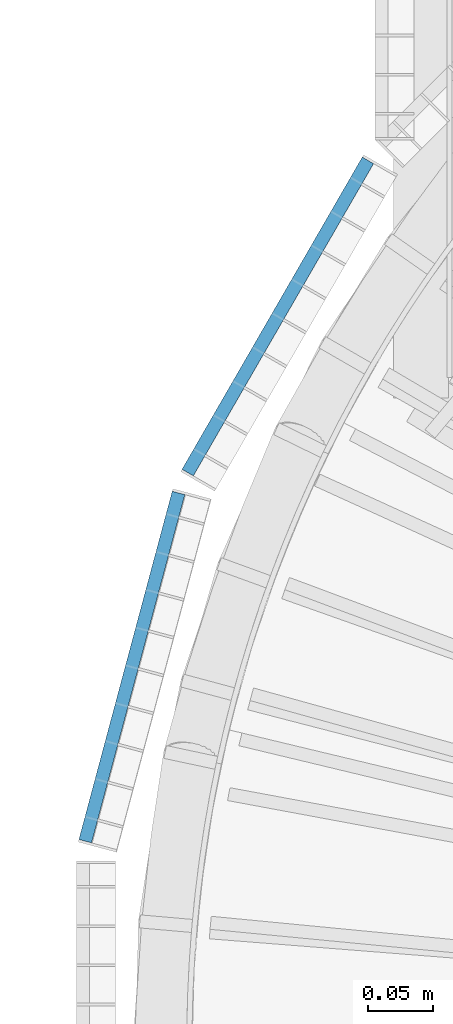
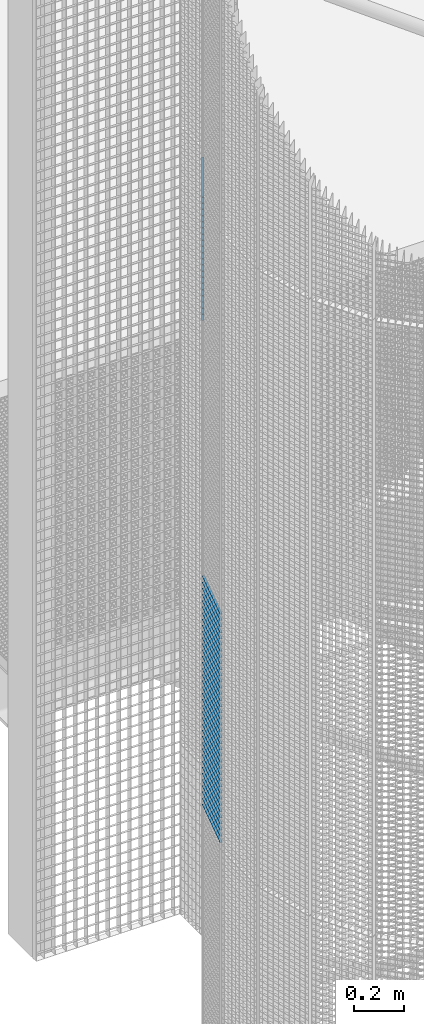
# One storey, part 202 of 1183: 59 beams, 2 elements without a shape of their own.
"""IFC2X3 building model written with IfcOpenShell, lengths in millimetres."""

from ifc_helpers import new_model, si_unit, frame, origin_with_axes, origin_2d_with_axis, place, context, subcontext, project, spatial, rectangle, extrude, material, type_object, element, aggregate, save


model = new_model("IFC2X3")

# Units and contexts
model_context = context("Model", 3, precision=1e-05, world=origin_with_axes())
body_context = subcontext(model_context, "Body", "Model", "MODEL_VIEW")
ifc_project = project(units=[si_unit("LENGTHUNIT", "METRE", prefix="MILLI"), si_unit("AREAUNIT", "SQUARE_METRE"), si_unit("VOLUMEUNIT", "CUBIC_METRE"), si_unit("MASSUNIT", "GRAM", prefix="KILO"), si_unit("TIMEUNIT", "SECOND"), si_unit("PLANEANGLEUNIT", "RADIAN"), si_unit("SOLIDANGLEUNIT", "STERADIAN"), si_unit("THERMODYNAMICTEMPERATUREUNIT", "DEGREE_CELSIUS"), si_unit("LUMINOUSINTENSITYUNIT", "LUMEN")], contexts=[model_context])

# Site, building, storey
site_placement = place(None, origin_with_axes())
site = spatial("IfcSite", under=ifc_project, at=site_placement, Name="Undefined", CompositionType="ELEMENT")
building_placement = place(site_placement, origin_with_axes())
building = spatial("IfcBuilding", under=site, at=building_placement, Name="Undefined", CompositionType="ELEMENT")
storey_placement = place(building_placement, origin_with_axes())
storey = spatial("IfcBuildingStorey", under=building, at=storey_placement, Name="Undefined", CompositionType="ELEMENT", Elevation=0.0)

# Assembly, beams
assembly_1_placement = place(storey_placement, origin_with_axes())
assembly_1 = element("IfcElementAssembly", 1, at=assembly_1_placement, inside=storey, Name="BORDURE", AssemblyPlace="NOTDEFINED", PredefinedType="NOTDEFINED")
ifc_material = material(Name="STEEL/S235JR")
beam_type = type_object("IfcBeamType", Name="PL2*10", PredefinedType="NOTDEFINED")
beam_1_placement = place(assembly_1_placement, frame((-1040.30888419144, 421.618038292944, 7140.0), z_axis=(-0.965925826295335, 0.258819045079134, 0.0), x_axis=(-0.258819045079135, -0.965925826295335, 0.0)))
beam_1 = element("IfcBeam", 2, at=beam_1_placement, type_object=beam_type, material=ifc_material, Name="ENTRETOISE", context=body_context, shape_type="SweptSolid", body=[
    extrude(rectangle(XDim=2.0, YDim=10.0, at=origin_2d_with_axis()), frame((275.999999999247, 9.09494701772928e-13, 1.53210777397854e-14), z_axis=(-1.0, 0.0, 0.0), x_axis=(0.0, -1.0, 0.0)), (0.0, 0.0, 1.0), 276.0),
])
beam_2_placement = place(assembly_1_placement, frame((-1040.30888419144, 421.618038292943, 6720.0), z_axis=(-0.965925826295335, 0.258819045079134, 0.0), x_axis=(-0.258819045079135, -0.965925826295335, 0.0)))
beam_2 = element("IfcBeam", 3, at=beam_2_placement, type_object=beam_type, material=ifc_material, Name="ENTRETOISE", context=body_context, shape_type="SweptSolid", body=[
    extrude(rectangle(XDim=2.0, YDim=10.0, at=origin_2d_with_axis()), frame((275.999999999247, 9.09494701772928e-13, 1.53210777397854e-14), z_axis=(-1.0, 0.0, 0.0), x_axis=(0.0, -1.0, 0.0)), (0.0, 0.0, 1.0), 276.0),
])
beam_3_placement = place(assembly_1_placement, frame((-1040.30888419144, 421.618038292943, 6690.0), z_axis=(-0.965925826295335, 0.258819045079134, 0.0), x_axis=(-0.258819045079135, -0.965925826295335, 0.0)))
beam_3 = element("IfcBeam", 4, at=beam_3_placement, type_object=beam_type, material=ifc_material, Name="ENTRETOISE", context=body_context, shape_type="SweptSolid", body=[
    extrude(rectangle(XDim=2.0, YDim=10.0, at=origin_2d_with_axis()), frame((275.999999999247, 9.09494701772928e-13, 1.53210777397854e-14), z_axis=(-1.0, 0.0, 0.0), x_axis=(0.0, -1.0, 0.0)), (0.0, 0.0, 1.0), 276.0),
])
beam_4_placement = place(assembly_1_placement, frame((-1040.30888419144, 421.618038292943, 6750.0), z_axis=(-0.965925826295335, 0.258819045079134, 0.0), x_axis=(-0.258819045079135, -0.965925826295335, 0.0)))
beam_4 = element("IfcBeam", 5, at=beam_4_placement, type_object=beam_type, material=ifc_material, Name="ENTRETOISE", context=body_context, shape_type="SweptSolid", body=[
    extrude(rectangle(XDim=2.0, YDim=10.0, at=origin_2d_with_axis()), frame((275.999999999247, 9.09494701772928e-13, 1.53210777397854e-14), z_axis=(-1.0, 0.0, 0.0), x_axis=(0.0, -1.0, 0.0)), (0.0, 0.0, 1.0), 276.0),
])
beam_5_placement = place(assembly_1_placement, frame((-1040.30888419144, 421.618038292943, 6660.0), z_axis=(-0.965925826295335, 0.258819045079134, 0.0), x_axis=(-0.258819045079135, -0.965925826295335, 0.0)))
beam_5 = element("IfcBeam", 6, at=beam_5_placement, type_object=beam_type, material=ifc_material, Name="ENTRETOISE", context=body_context, shape_type="SweptSolid", body=[
    extrude(rectangle(XDim=2.0, YDim=10.0, at=origin_2d_with_axis()), frame((275.999999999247, 9.09494701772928e-13, 1.53210777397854e-14), z_axis=(-1.0, 0.0, 0.0), x_axis=(0.0, -1.0, 0.0)), (0.0, 0.0, 1.0), 276.0),
])
beam_6_placement = place(assembly_1_placement, frame((-1040.30888419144, 421.618038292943, 6630.0), z_axis=(-0.965925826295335, 0.258819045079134, 0.0), x_axis=(-0.258819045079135, -0.965925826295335, 0.0)))
beam_6 = element("IfcBeam", 7, at=beam_6_placement, type_object=beam_type, material=ifc_material, Name="ENTRETOISE", context=body_context, shape_type="SweptSolid", body=[
    extrude(rectangle(XDim=2.0, YDim=10.0, at=origin_2d_with_axis()), frame((275.999999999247, 9.09494701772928e-13, 1.53210777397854e-14), z_axis=(-1.0, 0.0, 0.0), x_axis=(0.0, -1.0, 0.0)), (0.0, 0.0, 1.0), 276.0),
])
beam_7_placement = place(assembly_1_placement, frame((-1040.30888419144, 421.618038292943, 6780.0), z_axis=(-0.965925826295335, 0.258819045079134, 0.0), x_axis=(-0.258819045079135, -0.965925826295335, 0.0)))
beam_7 = element("IfcBeam", 8, at=beam_7_placement, type_object=beam_type, material=ifc_material, Name="ENTRETOISE", context=body_context, shape_type="SweptSolid", body=[
    extrude(rectangle(XDim=2.0, YDim=10.0, at=origin_2d_with_axis()), frame((275.999999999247, 9.09494701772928e-13, 1.53210777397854e-14), z_axis=(-1.0, 0.0, 0.0), x_axis=(0.0, -1.0, 0.0)), (0.0, 0.0, 1.0), 276.0),
])
beam_8_placement = place(assembly_1_placement, frame((-1040.30888419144, 421.618038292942, 6600.0), z_axis=(-0.965925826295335, 0.258819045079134, 0.0), x_axis=(-0.258819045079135, -0.965925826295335, 0.0)))
beam_8 = element("IfcBeam", 9, at=beam_8_placement, type_object=beam_type, material=ifc_material, Name="ENTRETOISE", context=body_context, shape_type="SweptSolid", body=[
    extrude(rectangle(XDim=2.0, YDim=10.0, at=origin_2d_with_axis()), frame((275.999999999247, 9.09494701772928e-13, 1.53210777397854e-14), z_axis=(-1.0, 0.0, 0.0), x_axis=(0.0, -1.0, 0.0)), (0.0, 0.0, 1.0), 276.0),
])
beam_9_placement = place(assembly_1_placement, frame((-1040.30888419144, 421.618038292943, 6810.0), z_axis=(-0.965925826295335, 0.258819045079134, 0.0), x_axis=(-0.258819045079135, -0.965925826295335, 0.0)))
beam_9 = element("IfcBeam", 10, at=beam_9_placement, type_object=beam_type, material=ifc_material, Name="ENTRETOISE", context=body_context, shape_type="SweptSolid", body=[
    extrude(rectangle(XDim=2.0, YDim=10.0, at=origin_2d_with_axis()), frame((275.999999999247, 9.09494701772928e-13, 1.53210777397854e-14), z_axis=(-1.0, 0.0, 0.0), x_axis=(0.0, -1.0, 0.0)), (0.0, 0.0, 1.0), 276.0),
])
beam_10_placement = place(assembly_1_placement, frame((-1040.30888419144, 421.618038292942, 6570.0), z_axis=(-0.965925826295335, 0.258819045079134, 0.0), x_axis=(-0.258819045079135, -0.965925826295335, 0.0)))
beam_10 = element("IfcBeam", 11, at=beam_10_placement, type_object=beam_type, material=ifc_material, Name="ENTRETOISE", context=body_context, shape_type="SweptSolid", body=[
    extrude(rectangle(XDim=2.0, YDim=10.0, at=origin_2d_with_axis()), frame((275.999999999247, 9.09494701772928e-13, 1.53210777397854e-14), z_axis=(-1.0, 0.0, 0.0), x_axis=(0.0, -1.0, 0.0)), (0.0, 0.0, 1.0), 276.0),
])
beam_11_placement = place(assembly_1_placement, frame((-1040.30888419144, 421.618038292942, 6540.0), z_axis=(-0.965925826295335, 0.258819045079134, 0.0), x_axis=(-0.258819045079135, -0.965925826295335, 0.0)))
beam_11 = element("IfcBeam", 12, at=beam_11_placement, type_object=beam_type, material=ifc_material, Name="ENTRETOISE", context=body_context, shape_type="SweptSolid", body=[
    extrude(rectangle(XDim=2.0, YDim=10.0, at=origin_2d_with_axis()), frame((275.999999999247, 9.09494701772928e-13, 1.53210777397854e-14), z_axis=(-1.0, 0.0, 0.0), x_axis=(0.0, -1.0, 0.0)), (0.0, 0.0, 1.0), 276.0),
])
beam_12_placement = place(assembly_1_placement, frame((-1040.30888419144, 421.618038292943, 6840.0), z_axis=(-0.965925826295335, 0.258819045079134, 0.0), x_axis=(-0.258819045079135, -0.965925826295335, 0.0)))
beam_12 = element("IfcBeam", 13, at=beam_12_placement, type_object=beam_type, material=ifc_material, Name="ENTRETOISE", context=body_context, shape_type="SweptSolid", body=[
    extrude(rectangle(XDim=2.0, YDim=10.0, at=origin_2d_with_axis()), frame((275.999999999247, 9.09494701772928e-13, 1.53210777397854e-14), z_axis=(-1.0, 0.0, 0.0), x_axis=(0.0, -1.0, 0.0)), (0.0, 0.0, 1.0), 276.0),
])
beam_13_placement = place(assembly_1_placement, frame((-1040.30888419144, 421.618038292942, 6510.0), z_axis=(-0.965925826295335, 0.258819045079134, 0.0), x_axis=(-0.258819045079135, -0.965925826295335, 0.0)))
beam_13 = element("IfcBeam", 14, at=beam_13_placement, type_object=beam_type, material=ifc_material, Name="ENTRETOISE", context=body_context, shape_type="SweptSolid", body=[
    extrude(rectangle(XDim=2.0, YDim=10.0, at=origin_2d_with_axis()), frame((275.999999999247, 9.09494701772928e-13, 1.53210777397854e-14), z_axis=(-1.0, 0.0, 0.0), x_axis=(0.0, -1.0, 0.0)), (0.0, 0.0, 1.0), 276.0),
])
beam_14_placement = place(assembly_1_placement, frame((-1040.30888419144, 421.618038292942, 6480.0), z_axis=(-0.965925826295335, 0.258819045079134, 0.0), x_axis=(-0.258819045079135, -0.965925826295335, 0.0)))
beam_14 = element("IfcBeam", 15, at=beam_14_placement, type_object=beam_type, material=ifc_material, Name="ENTRETOISE", context=body_context, shape_type="SweptSolid", body=[
    extrude(rectangle(XDim=2.0, YDim=10.0, at=origin_2d_with_axis()), frame((275.999999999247, 9.09494701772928e-13, 1.53210777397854e-14), z_axis=(-1.0, 0.0, 0.0), x_axis=(0.0, -1.0, 0.0)), (0.0, 0.0, 1.0), 276.0),
])
beam_15_placement = place(assembly_1_placement, frame((-1040.30888419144, 421.618038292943, 6870.0), z_axis=(-0.965925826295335, 0.258819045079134, 0.0), x_axis=(-0.258819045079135, -0.965925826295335, 0.0)))
beam_15 = element("IfcBeam", 16, at=beam_15_placement, type_object=beam_type, material=ifc_material, Name="ENTRETOISE", context=body_context, shape_type="SweptSolid", body=[
    extrude(rectangle(XDim=2.0, YDim=10.0, at=origin_2d_with_axis()), frame((275.999999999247, 9.09494701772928e-13, 1.53210777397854e-14), z_axis=(-1.0, 0.0, 0.0), x_axis=(0.0, -1.0, 0.0)), (0.0, 0.0, 1.0), 276.0),
])
beam_16_placement = place(assembly_1_placement, frame((-1040.30888419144, 421.618038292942, 6450.0), z_axis=(-0.965925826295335, 0.258819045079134, 0.0), x_axis=(-0.258819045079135, -0.965925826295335, 0.0)))
beam_16 = element("IfcBeam", 17, at=beam_16_placement, type_object=beam_type, material=ifc_material, Name="ENTRETOISE", context=body_context, shape_type="SweptSolid", body=[
    extrude(rectangle(XDim=2.0, YDim=10.0, at=origin_2d_with_axis()), frame((275.999999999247, 9.09494701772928e-13, 1.53210777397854e-14), z_axis=(-1.0, 0.0, 0.0), x_axis=(0.0, -1.0, 0.0)), (0.0, 0.0, 1.0), 276.0),
])
beam_17_placement = place(assembly_1_placement, frame((-1040.30888419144, 421.618038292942, 6420.0), z_axis=(-0.965925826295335, 0.258819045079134, 0.0), x_axis=(-0.258819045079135, -0.965925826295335, 0.0)))
beam_17 = element("IfcBeam", 18, at=beam_17_placement, type_object=beam_type, material=ifc_material, Name="ENTRETOISE", context=body_context, shape_type="SweptSolid", body=[
    extrude(rectangle(XDim=2.0, YDim=10.0, at=origin_2d_with_axis()), frame((275.999999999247, 9.09494701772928e-13, 1.53210777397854e-14), z_axis=(-1.0, 0.0, 0.0), x_axis=(0.0, -1.0, 0.0)), (0.0, 0.0, 1.0), 276.0),
])
beam_18_placement = place(assembly_1_placement, frame((-1040.30888419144, 421.618038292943, 6900.0), z_axis=(-0.965925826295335, 0.258819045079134, 0.0), x_axis=(-0.258819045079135, -0.965925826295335, 0.0)))
beam_18 = element("IfcBeam", 19, at=beam_18_placement, type_object=beam_type, material=ifc_material, Name="ENTRETOISE", context=body_context, shape_type="SweptSolid", body=[
    extrude(rectangle(XDim=2.0, YDim=10.0, at=origin_2d_with_axis()), frame((275.999999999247, 9.09494701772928e-13, 1.53210777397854e-14), z_axis=(-1.0, 0.0, 0.0), x_axis=(0.0, -1.0, 0.0)), (0.0, 0.0, 1.0), 276.0),
])
beam_19_placement = place(assembly_1_placement, frame((-1040.30888419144, 421.618038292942, 6390.0), z_axis=(-0.965925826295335, 0.258819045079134, 0.0), x_axis=(-0.258819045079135, -0.965925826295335, 0.0)))
beam_19 = element("IfcBeam", 20, at=beam_19_placement, type_object=beam_type, material=ifc_material, Name="ENTRETOISE", context=body_context, shape_type="SweptSolid", body=[
    extrude(rectangle(XDim=2.0, YDim=10.0, at=origin_2d_with_axis()), frame((275.999999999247, 9.09494701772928e-13, 1.53210777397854e-14), z_axis=(-1.0, 0.0, 0.0), x_axis=(0.0, -1.0, 0.0)), (0.0, 0.0, 1.0), 276.0),
])
beam_20_placement = place(assembly_1_placement, frame((-1040.30888419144, 421.618038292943, 6930.0), z_axis=(-0.965925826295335, 0.258819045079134, 0.0), x_axis=(-0.258819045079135, -0.965925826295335, 0.0)))
beam_20 = element("IfcBeam", 21, at=beam_20_placement, type_object=beam_type, material=ifc_material, Name="ENTRETOISE", context=body_context, shape_type="SweptSolid", body=[
    extrude(rectangle(XDim=2.0, YDim=10.0, at=origin_2d_with_axis()), frame((275.999999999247, 9.09494701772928e-13, 1.53210777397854e-14), z_axis=(-1.0, 0.0, 0.0), x_axis=(0.0, -1.0, 0.0)), (0.0, 0.0, 1.0), 276.0),
])
beam_21_placement = place(assembly_1_placement, frame((-1040.30888419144, 421.618038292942, 6360.0), z_axis=(-0.965925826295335, 0.258819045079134, 0.0), x_axis=(-0.258819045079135, -0.965925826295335, 0.0)))
beam_21 = element("IfcBeam", 22, at=beam_21_placement, type_object=beam_type, material=ifc_material, Name="ENTRETOISE", context=body_context, shape_type="SweptSolid", body=[
    extrude(rectangle(XDim=2.0, YDim=10.0, at=origin_2d_with_axis()), frame((275.999999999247, 9.09494701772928e-13, 1.53210777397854e-14), z_axis=(-1.0, 0.0, 0.0), x_axis=(0.0, -1.0, 0.0)), (0.0, 0.0, 1.0), 276.0),
])
beam_22_placement = place(assembly_1_placement, frame((-1040.30888419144, 421.618038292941, 6330.0), z_axis=(-0.965925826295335, 0.258819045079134, 0.0), x_axis=(-0.258819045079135, -0.965925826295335, 0.0)))
beam_22 = element("IfcBeam", 23, at=beam_22_placement, type_object=beam_type, material=ifc_material, Name="ENTRETOISE", context=body_context, shape_type="SweptSolid", body=[
    extrude(rectangle(XDim=2.0, YDim=10.0, at=origin_2d_with_axis()), frame((275.999999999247, 9.09494701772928e-13, 1.53210777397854e-14), z_axis=(-1.0, 0.0, 0.0), x_axis=(0.0, -1.0, 0.0)), (0.0, 0.0, 1.0), 276.0),
])
beam_23_placement = place(assembly_1_placement, frame((-1040.30888419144, 421.618038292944, 6960.0), z_axis=(-0.965925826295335, 0.258819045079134, 0.0), x_axis=(-0.258819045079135, -0.965925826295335, 0.0)))
beam_23 = element("IfcBeam", 24, at=beam_23_placement, type_object=beam_type, material=ifc_material, Name="ENTRETOISE", context=body_context, shape_type="SweptSolid", body=[
    extrude(rectangle(XDim=2.0, YDim=10.0, at=origin_2d_with_axis()), frame((275.999999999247, 9.09494701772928e-13, 1.53210777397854e-14), z_axis=(-1.0, 0.0, 0.0), x_axis=(0.0, -1.0, 0.0)), (0.0, 0.0, 1.0), 276.0),
])
beam_24_placement = place(assembly_1_placement, frame((-1040.30888419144, 421.618038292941, 6300.0), z_axis=(-0.965925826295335, 0.258819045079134, 0.0), x_axis=(-0.258819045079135, -0.965925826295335, 0.0)))
beam_24 = element("IfcBeam", 25, at=beam_24_placement, type_object=beam_type, material=ifc_material, Name="ENTRETOISE", context=body_context, shape_type="SweptSolid", body=[
    extrude(rectangle(XDim=2.0, YDim=10.0, at=origin_2d_with_axis()), frame((275.999999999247, 9.09494701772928e-13, 1.53210777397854e-14), z_axis=(-1.0, 0.0, 0.0), x_axis=(0.0, -1.0, 0.0)), (0.0, 0.0, 1.0), 276.0),
])
beam_25_placement = place(assembly_1_placement, frame((-1040.30888419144, 421.618038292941, 6270.0), z_axis=(-0.965925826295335, 0.258819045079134, 0.0), x_axis=(-0.258819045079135, -0.965925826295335, 0.0)))
beam_25 = element("IfcBeam", 26, at=beam_25_placement, type_object=beam_type, material=ifc_material, Name="ENTRETOISE", context=body_context, shape_type="SweptSolid", body=[
    extrude(rectangle(XDim=2.0, YDim=10.0, at=origin_2d_with_axis()), frame((275.999999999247, 9.09494701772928e-13, 1.53210777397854e-14), z_axis=(-1.0, 0.0, 0.0), x_axis=(0.0, -1.0, 0.0)), (0.0, 0.0, 1.0), 276.0),
])
beam_26_placement = place(assembly_1_placement, frame((-1040.30888419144, 421.618038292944, 6990.0), z_axis=(-0.965925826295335, 0.258819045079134, 0.0), x_axis=(-0.258819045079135, -0.965925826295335, 0.0)))
beam_26 = element("IfcBeam", 27, at=beam_26_placement, type_object=beam_type, material=ifc_material, Name="ENTRETOISE", context=body_context, shape_type="SweptSolid", body=[
    extrude(rectangle(XDim=2.0, YDim=10.0, at=origin_2d_with_axis()), frame((275.999999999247, 9.09494701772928e-13, 1.53210777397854e-14), z_axis=(-1.0, 0.0, 0.0), x_axis=(0.0, -1.0, 0.0)), (0.0, 0.0, 1.0), 276.0),
])
beam_27_placement = place(assembly_1_placement, frame((-1040.30888419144, 421.618038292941, 6240.0), z_axis=(-0.965925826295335, 0.258819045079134, 0.0), x_axis=(-0.258819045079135, -0.965925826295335, 0.0)))
beam_27 = element("IfcBeam", 28, at=beam_27_placement, type_object=beam_type, material=ifc_material, Name="ENTRETOISE", context=body_context, shape_type="SweptSolid", body=[
    extrude(rectangle(XDim=2.0, YDim=10.0, at=origin_2d_with_axis()), frame((275.999999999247, 9.09494701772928e-13, 1.53210777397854e-14), z_axis=(-1.0, 0.0, 0.0), x_axis=(0.0, -1.0, 0.0)), (0.0, 0.0, 1.0), 276.0),
])
beam_28_placement = place(assembly_1_placement, frame((-1040.30888419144, 421.618038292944, 7020.0), z_axis=(-0.965925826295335, 0.258819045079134, 0.0), x_axis=(-0.258819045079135, -0.965925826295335, 0.0)))
beam_28 = element("IfcBeam", 29, at=beam_28_placement, type_object=beam_type, material=ifc_material, Name="ENTRETOISE", context=body_context, shape_type="SweptSolid", body=[
    extrude(rectangle(XDim=2.0, YDim=10.0, at=origin_2d_with_axis()), frame((275.999999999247, 9.09494701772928e-13, 1.53210777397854e-14), z_axis=(-1.0, 0.0, 0.0), x_axis=(0.0, -1.0, 0.0)), (0.0, 0.0, 1.0), 276.0),
])
beam_29_placement = place(assembly_1_placement, frame((-1040.30888419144, 421.618038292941, 6210.0), z_axis=(-0.965925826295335, 0.258819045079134, 0.0), x_axis=(-0.258819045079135, -0.965925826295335, 0.0)))
beam_29 = element("IfcBeam", 30, at=beam_29_placement, type_object=beam_type, material=ifc_material, Name="ENTRETOISE", context=body_context, shape_type="SweptSolid", body=[
    extrude(rectangle(XDim=2.0, YDim=10.0, at=origin_2d_with_axis()), frame((275.999999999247, 9.09494701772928e-13, 1.53210777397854e-14), z_axis=(-1.0, 0.0, 0.0), x_axis=(0.0, -1.0, 0.0)), (0.0, 0.0, 1.0), 276.0),
])
beam_30_placement = place(assembly_1_placement, frame((-1040.30888419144, 421.618038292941, 6180.0), z_axis=(-0.965925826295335, 0.258819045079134, 0.0), x_axis=(-0.258819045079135, -0.965925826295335, 0.0)))
beam_30 = element("IfcBeam", 31, at=beam_30_placement, type_object=beam_type, material=ifc_material, Name="ENTRETOISE", context=body_context, shape_type="SweptSolid", body=[
    extrude(rectangle(XDim=2.0, YDim=10.0, at=origin_2d_with_axis()), frame((275.999999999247, 9.09494701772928e-13, 1.53210777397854e-14), z_axis=(-1.0, 0.0, 0.0), x_axis=(0.0, -1.0, 0.0)), (0.0, 0.0, 1.0), 276.0),
])
beam_31_placement = place(assembly_1_placement, frame((-1040.30888419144, 421.618038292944, 7050.0), z_axis=(-0.965925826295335, 0.258819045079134, 0.0), x_axis=(-0.258819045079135, -0.965925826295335, 0.0)))
beam_31 = element("IfcBeam", 32, at=beam_31_placement, type_object=beam_type, material=ifc_material, Name="ENTRETOISE", context=body_context, shape_type="SweptSolid", body=[
    extrude(rectangle(XDim=2.0, YDim=10.0, at=origin_2d_with_axis()), frame((275.999999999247, 9.09494701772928e-13, 1.53210777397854e-14), z_axis=(-1.0, 0.0, 0.0), x_axis=(0.0, -1.0, 0.0)), (0.0, 0.0, 1.0), 276.0),
])
beam_32_placement = place(assembly_1_placement, frame((-1040.30888419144, 421.618038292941, 6150.0), z_axis=(-0.965925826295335, 0.258819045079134, 0.0), x_axis=(-0.258819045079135, -0.965925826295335, 0.0)))
beam_32 = element("IfcBeam", 33, at=beam_32_placement, type_object=beam_type, material=ifc_material, Name="ENTRETOISE", context=body_context, shape_type="SweptSolid", body=[
    extrude(rectangle(XDim=2.0, YDim=10.0, at=origin_2d_with_axis()), frame((275.999999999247, 9.09494701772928e-13, 1.53210777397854e-14), z_axis=(-1.0, 0.0, 0.0), x_axis=(0.0, -1.0, 0.0)), (0.0, 0.0, 1.0), 276.0),
])
beam_33_placement = place(assembly_1_placement, frame((-1040.30888419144, 421.618038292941, 6120.0), z_axis=(-0.965925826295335, 0.258819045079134, 0.0), x_axis=(-0.258819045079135, -0.965925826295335, 0.0)))
beam_33 = element("IfcBeam", 34, at=beam_33_placement, type_object=beam_type, material=ifc_material, Name="ENTRETOISE", context=body_context, shape_type="SweptSolid", body=[
    extrude(rectangle(XDim=2.0, YDim=10.0, at=origin_2d_with_axis()), frame((275.999999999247, 9.09494701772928e-13, 1.53210777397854e-14), z_axis=(-1.0, 0.0, 0.0), x_axis=(0.0, -1.0, 0.0)), (0.0, 0.0, 1.0), 276.0),
])
beam_34_placement = place(assembly_1_placement, frame((-1040.30888419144, 421.618038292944, 7080.0), z_axis=(-0.965925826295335, 0.258819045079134, 0.0), x_axis=(-0.258819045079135, -0.965925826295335, 0.0)))
beam_34 = element("IfcBeam", 35, at=beam_34_placement, type_object=beam_type, material=ifc_material, Name="ENTRETOISE", context=body_context, shape_type="SweptSolid", body=[
    extrude(rectangle(XDim=2.0, YDim=10.0, at=origin_2d_with_axis()), frame((275.999999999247, 9.09494701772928e-13, 1.53210777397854e-14), z_axis=(-1.0, 0.0, 0.0), x_axis=(0.0, -1.0, 0.0)), (0.0, 0.0, 1.0), 276.0),
])
beam_35_placement = place(assembly_1_placement, frame((-1040.30888419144, 421.618038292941, 6090.0), z_axis=(-0.965925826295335, 0.258819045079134, 0.0), x_axis=(-0.258819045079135, -0.965925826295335, 0.0)))
beam_35 = element("IfcBeam", 36, at=beam_35_placement, type_object=beam_type, material=ifc_material, Name="ENTRETOISE", context=body_context, shape_type="SweptSolid", body=[
    extrude(rectangle(XDim=2.0, YDim=10.0, at=origin_2d_with_axis()), frame((275.999999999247, 9.09494701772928e-13, 1.53210777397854e-14), z_axis=(-1.0, 0.0, 0.0), x_axis=(0.0, -1.0, 0.0)), (0.0, 0.0, 1.0), 276.0),
])
beam_36_placement = place(assembly_1_placement, frame((-1040.30888419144, 421.618038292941, 6060.0), z_axis=(-0.965925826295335, 0.258819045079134, 0.0), x_axis=(-0.258819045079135, -0.965925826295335, 0.0)))
beam_36 = element("IfcBeam", 37, at=beam_36_placement, type_object=beam_type, material=ifc_material, Name="ENTRETOISE", context=body_context, shape_type="SweptSolid", body=[
    extrude(rectangle(XDim=2.0, YDim=10.0, at=origin_2d_with_axis()), frame((275.999999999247, 9.09494701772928e-13, 1.53210777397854e-14), z_axis=(-1.0, 0.0, 0.0), x_axis=(0.0, -1.0, 0.0)), (0.0, 0.0, 1.0), 276.0),
])
beam_37_placement = place(assembly_1_placement, frame((-1040.30888419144, 421.618038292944, 7110.0), z_axis=(-0.965925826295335, 0.258819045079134, 0.0), x_axis=(-0.258819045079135, -0.965925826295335, 0.0)))
beam_37 = element("IfcBeam", 38, at=beam_37_placement, type_object=beam_type, material=ifc_material, Name="ENTRETOISE", context=body_context, shape_type="SweptSolid", body=[
    extrude(rectangle(XDim=2.0, YDim=10.0, at=origin_2d_with_axis()), frame((275.999999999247, 9.09494701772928e-13, 1.53210777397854e-14), z_axis=(-1.0, 0.0, 0.0), x_axis=(0.0, -1.0, 0.0)), (0.0, 0.0, 1.0), 276.0),
])
beam_38_placement = place(assembly_1_placement, frame((-1040.30888419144, 421.618038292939, 6030.0), z_axis=(-0.965925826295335, 0.258819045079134, 0.0), x_axis=(-0.258819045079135, -0.965925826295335, 0.0)))
beam_38 = element("IfcBeam", 39, at=beam_38_placement, type_object=beam_type, material=ifc_material, Name="ENTRETOISE", context=body_context, shape_type="SweptSolid", body=[
    extrude(rectangle(XDim=2.0, YDim=10.0, at=origin_2d_with_axis()), frame((275.999999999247, 9.09494701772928e-13, 1.53210777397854e-14), z_axis=(-1.0, 0.0, 0.0), x_axis=(0.0, -1.0, 0.0)), (0.0, 0.0, 1.0), 276.0),
])
aggregate(assembly_1, [beam_1, beam_2, beam_3, beam_4, beam_5, beam_6, beam_7, beam_8, beam_9, beam_10, beam_11, beam_12, beam_13, beam_14, beam_15, beam_16, beam_17, beam_18, beam_19, beam_20, beam_21, beam_22, beam_23, beam_24, beam_25, beam_26, beam_27, beam_28, beam_29, beam_30, beam_31, beam_32, beam_33, beam_34, beam_35, beam_36, beam_37, beam_38])

assembly_2_placement = place(storey_placement, origin_with_axes())
assembly_2 = element("IfcElementAssembly", 40, at=assembly_2_placement, inside=storey, Name="BORDURE", AssemblyPlace="NOTDEFINED", PredefinedType="NOTDEFINED")
beam_39_placement = place(assembly_2_placement, frame((-895.303964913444, 676.248044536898, 8970.0), z_axis=(-0.866025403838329, 0.499999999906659, 0.0), x_axis=(-0.49999999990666, -0.866025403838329, 0.0)))
beam_39 = element("IfcBeam", 41, at=beam_39_placement, type_object=beam_type, material=ifc_material, Name="ENTRETOISE", context=body_context, shape_type="SweptSolid", body=[
    extrude(rectangle(XDim=2.0, YDim=10.0, at=origin_2d_with_axis()), frame((275.999999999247, 9.09494701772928e-13, 1.53210777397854e-14), z_axis=(-1.0, 0.0, 0.0), x_axis=(0.0, -1.0, 0.0)), (0.0, 0.0, 1.0), 276.0),
])
beam_40_placement = place(assembly_2_placement, frame((-895.303964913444, 676.248044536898, 8940.0), z_axis=(-0.866025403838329, 0.499999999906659, 0.0), x_axis=(-0.49999999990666, -0.866025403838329, 0.0)))
beam_40 = element("IfcBeam", 42, at=beam_40_placement, type_object=beam_type, material=ifc_material, Name="ENTRETOISE", context=body_context, shape_type="SweptSolid", body=[
    extrude(rectangle(XDim=2.0, YDim=10.0, at=origin_2d_with_axis()), frame((275.999999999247, 9.09494701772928e-13, 1.53210777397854e-14), z_axis=(-1.0, 0.0, 0.0), x_axis=(0.0, -1.0, 0.0)), (0.0, 0.0, 1.0), 276.0),
])
beam_41_placement = place(assembly_2_placement, frame((-895.303964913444, 676.248044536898, 8910.0), z_axis=(-0.866025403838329, 0.499999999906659, 0.0), x_axis=(-0.49999999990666, -0.866025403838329, 0.0)))
beam_41 = element("IfcBeam", 43, at=beam_41_placement, type_object=beam_type, material=ifc_material, Name="ENTRETOISE", context=body_context, shape_type="SweptSolid", body=[
    extrude(rectangle(XDim=2.0, YDim=10.0, at=origin_2d_with_axis()), frame((275.999999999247, 9.09494701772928e-13, 1.53210777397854e-14), z_axis=(-1.0, 0.0, 0.0), x_axis=(0.0, -1.0, 0.0)), (0.0, 0.0, 1.0), 276.0),
])
beam_42_placement = place(assembly_2_placement, frame((-895.303964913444, 676.248044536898, 8880.0), z_axis=(-0.866025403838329, 0.499999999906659, 0.0), x_axis=(-0.49999999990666, -0.866025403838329, 0.0)))
beam_42 = element("IfcBeam", 44, at=beam_42_placement, type_object=beam_type, material=ifc_material, Name="ENTRETOISE", context=body_context, shape_type="SweptSolid", body=[
    extrude(rectangle(XDim=2.0, YDim=10.0, at=origin_2d_with_axis()), frame((275.999999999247, 9.09494701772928e-13, 1.53210777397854e-14), z_axis=(-1.0, 0.0, 0.0), x_axis=(0.0, -1.0, 0.0)), (0.0, 0.0, 1.0), 276.0),
])
beam_43_placement = place(assembly_2_placement, frame((-895.303964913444, 676.248044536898, 8850.0), z_axis=(-0.866025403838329, 0.499999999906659, 0.0), x_axis=(-0.49999999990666, -0.866025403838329, 0.0)))
beam_43 = element("IfcBeam", 45, at=beam_43_placement, type_object=beam_type, material=ifc_material, Name="ENTRETOISE", context=body_context, shape_type="SweptSolid", body=[
    extrude(rectangle(XDim=2.0, YDim=10.0, at=origin_2d_with_axis()), frame((275.999999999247, 9.09494701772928e-13, 1.53210777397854e-14), z_axis=(-1.0, 0.0, 0.0), x_axis=(0.0, -1.0, 0.0)), (0.0, 0.0, 1.0), 276.0),
])
beam_44_placement = place(assembly_2_placement, frame((-895.303964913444, 676.248044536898, 8820.0), z_axis=(-0.866025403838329, 0.499999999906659, 0.0), x_axis=(-0.49999999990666, -0.866025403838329, 0.0)))
beam_44 = element("IfcBeam", 46, at=beam_44_placement, type_object=beam_type, material=ifc_material, Name="ENTRETOISE", context=body_context, shape_type="SweptSolid", body=[
    extrude(rectangle(XDim=2.0, YDim=10.0, at=origin_2d_with_axis()), frame((275.999999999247, 9.09494701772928e-13, 1.53210777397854e-14), z_axis=(-1.0, 0.0, 0.0), x_axis=(0.0, -1.0, 0.0)), (0.0, 0.0, 1.0), 276.0),
])
beam_45_placement = place(assembly_2_placement, frame((-895.303964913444, 676.248044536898, 8790.0), z_axis=(-0.866025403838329, 0.499999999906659, 0.0), x_axis=(-0.49999999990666, -0.866025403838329, 0.0)))
beam_45 = element("IfcBeam", 47, at=beam_45_placement, type_object=beam_type, material=ifc_material, Name="ENTRETOISE", context=body_context, shape_type="SweptSolid", body=[
    extrude(rectangle(XDim=2.0, YDim=10.0, at=origin_2d_with_axis()), frame((275.999999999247, 9.09494701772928e-13, 1.53210777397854e-14), z_axis=(-1.0, 0.0, 0.0), x_axis=(0.0, -1.0, 0.0)), (0.0, 0.0, 1.0), 276.0),
])
beam_46_placement = place(assembly_2_placement, frame((-895.303964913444, 676.248044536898, 8760.0), z_axis=(-0.866025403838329, 0.499999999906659, 0.0), x_axis=(-0.49999999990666, -0.866025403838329, 0.0)))
beam_46 = element("IfcBeam", 48, at=beam_46_placement, type_object=beam_type, material=ifc_material, Name="ENTRETOISE", context=body_context, shape_type="SweptSolid", body=[
    extrude(rectangle(XDim=2.0, YDim=10.0, at=origin_2d_with_axis()), frame((275.999999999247, 9.09494701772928e-13, 1.53210777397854e-14), z_axis=(-1.0, 0.0, 0.0), x_axis=(0.0, -1.0, 0.0)), (0.0, 0.0, 1.0), 276.0),
])
beam_47_placement = place(assembly_2_placement, frame((-895.303964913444, 676.248044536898, 8730.0), z_axis=(-0.866025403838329, 0.499999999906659, 0.0), x_axis=(-0.49999999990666, -0.866025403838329, 0.0)))
beam_47 = element("IfcBeam", 49, at=beam_47_placement, type_object=beam_type, material=ifc_material, Name="ENTRETOISE", context=body_context, shape_type="SweptSolid", body=[
    extrude(rectangle(XDim=2.0, YDim=10.0, at=origin_2d_with_axis()), frame((275.999999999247, 9.09494701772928e-13, 1.53210777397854e-14), z_axis=(-1.0, 0.0, 0.0), x_axis=(0.0, -1.0, 0.0)), (0.0, 0.0, 1.0), 276.0),
])
beam_48_placement = place(assembly_2_placement, frame((-895.303964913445, 676.248044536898, 8700.0), z_axis=(-0.866025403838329, 0.499999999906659, 0.0), x_axis=(-0.49999999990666, -0.866025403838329, 0.0)))
beam_48 = element("IfcBeam", 50, at=beam_48_placement, type_object=beam_type, material=ifc_material, Name="ENTRETOISE", context=body_context, shape_type="SweptSolid", body=[
    extrude(rectangle(XDim=2.0, YDim=10.0, at=origin_2d_with_axis()), frame((275.999999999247, 9.09494701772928e-13, 1.53210777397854e-14), z_axis=(-1.0, 0.0, 0.0), x_axis=(0.0, -1.0, 0.0)), (0.0, 0.0, 1.0), 276.0),
])
beam_49_placement = place(assembly_2_placement, frame((-895.303964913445, 676.248044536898, 8670.0), z_axis=(-0.866025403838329, 0.499999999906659, 0.0), x_axis=(-0.49999999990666, -0.866025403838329, 0.0)))
beam_49 = element("IfcBeam", 51, at=beam_49_placement, type_object=beam_type, material=ifc_material, Name="ENTRETOISE", context=body_context, shape_type="SweptSolid", body=[
    extrude(rectangle(XDim=2.0, YDim=10.0, at=origin_2d_with_axis()), frame((275.999999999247, 9.09494701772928e-13, 1.53210777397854e-14), z_axis=(-1.0, 0.0, 0.0), x_axis=(0.0, -1.0, 0.0)), (0.0, 0.0, 1.0), 276.0),
])
beam_50_placement = place(assembly_2_placement, frame((-895.303964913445, 676.248044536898, 8640.0), z_axis=(-0.866025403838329, 0.499999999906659, 0.0), x_axis=(-0.49999999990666, -0.866025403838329, 0.0)))
beam_50 = element("IfcBeam", 52, at=beam_50_placement, type_object=beam_type, material=ifc_material, Name="ENTRETOISE", context=body_context, shape_type="SweptSolid", body=[
    extrude(rectangle(XDim=2.0, YDim=10.0, at=origin_2d_with_axis()), frame((275.999999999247, 9.09494701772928e-13, 1.53210777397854e-14), z_axis=(-1.0, 0.0, 0.0), x_axis=(0.0, -1.0, 0.0)), (0.0, 0.0, 1.0), 276.0),
])
beam_51_placement = place(assembly_2_placement, frame((-895.303964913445, 676.248044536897, 8610.0), z_axis=(-0.866025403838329, 0.499999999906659, 0.0), x_axis=(-0.49999999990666, -0.866025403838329, 0.0)))
beam_51 = element("IfcBeam", 53, at=beam_51_placement, type_object=beam_type, material=ifc_material, Name="ENTRETOISE", context=body_context, shape_type="SweptSolid", body=[
    extrude(rectangle(XDim=2.0, YDim=10.0, at=origin_2d_with_axis()), frame((275.999999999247, 9.09494701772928e-13, 1.53210777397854e-14), z_axis=(-1.0, 0.0, 0.0), x_axis=(0.0, -1.0, 0.0)), (0.0, 0.0, 1.0), 276.0),
])
beam_52_placement = place(assembly_2_placement, frame((-895.303964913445, 676.248044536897, 8580.0), z_axis=(-0.866025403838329, 0.499999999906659, 0.0), x_axis=(-0.49999999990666, -0.866025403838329, 0.0)))
beam_52 = element("IfcBeam", 54, at=beam_52_placement, type_object=beam_type, material=ifc_material, Name="ENTRETOISE", context=body_context, shape_type="SweptSolid", body=[
    extrude(rectangle(XDim=2.0, YDim=10.0, at=origin_2d_with_axis()), frame((275.999999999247, 9.09494701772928e-13, 1.53210777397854e-14), z_axis=(-1.0, 0.0, 0.0), x_axis=(0.0, -1.0, 0.0)), (0.0, 0.0, 1.0), 276.0),
])
beam_53_placement = place(assembly_2_placement, frame((-895.303964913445, 676.248044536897, 8550.0), z_axis=(-0.866025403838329, 0.499999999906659, 0.0), x_axis=(-0.49999999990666, -0.866025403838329, 0.0)))
beam_53 = element("IfcBeam", 55, at=beam_53_placement, type_object=beam_type, material=ifc_material, Name="ENTRETOISE", context=body_context, shape_type="SweptSolid", body=[
    extrude(rectangle(XDim=2.0, YDim=10.0, at=origin_2d_with_axis()), frame((275.999999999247, 9.09494701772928e-13, 1.53210777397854e-14), z_axis=(-1.0, 0.0, 0.0), x_axis=(0.0, -1.0, 0.0)), (0.0, 0.0, 1.0), 276.0),
])
beam_54_placement = place(assembly_2_placement, frame((-895.303964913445, 676.248044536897, 8520.0), z_axis=(-0.866025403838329, 0.499999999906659, 0.0), x_axis=(-0.49999999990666, -0.866025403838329, 0.0)))
beam_54 = element("IfcBeam", 56, at=beam_54_placement, type_object=beam_type, material=ifc_material, Name="ENTRETOISE", context=body_context, shape_type="SweptSolid", body=[
    extrude(rectangle(XDim=2.0, YDim=10.0, at=origin_2d_with_axis()), frame((275.999999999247, 9.09494701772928e-13, 1.53210777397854e-14), z_axis=(-1.0, 0.0, 0.0), x_axis=(0.0, -1.0, 0.0)), (0.0, 0.0, 1.0), 276.0),
])
beam_55_placement = place(assembly_2_placement, frame((-895.303964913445, 676.248044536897, 8490.0), z_axis=(-0.866025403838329, 0.499999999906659, 0.0), x_axis=(-0.49999999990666, -0.866025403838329, 0.0)))
beam_55 = element("IfcBeam", 57, at=beam_55_placement, type_object=beam_type, material=ifc_material, Name="ENTRETOISE", context=body_context, shape_type="SweptSolid", body=[
    extrude(rectangle(XDim=2.0, YDim=10.0, at=origin_2d_with_axis()), frame((275.999999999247, 9.09494701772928e-13, 1.53210777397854e-14), z_axis=(-1.0, 0.0, 0.0), x_axis=(0.0, -1.0, 0.0)), (0.0, 0.0, 1.0), 276.0),
])
beam_56_placement = place(assembly_2_placement, frame((-895.303964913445, 676.248044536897, 8460.0), z_axis=(-0.866025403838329, 0.499999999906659, 0.0), x_axis=(-0.49999999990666, -0.866025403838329, 0.0)))
beam_56 = element("IfcBeam", 58, at=beam_56_placement, type_object=beam_type, material=ifc_material, Name="ENTRETOISE", context=body_context, shape_type="SweptSolid", body=[
    extrude(rectangle(XDim=2.0, YDim=10.0, at=origin_2d_with_axis()), frame((275.999999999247, 9.09494701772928e-13, 1.53210777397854e-14), z_axis=(-1.0, 0.0, 0.0), x_axis=(0.0, -1.0, 0.0)), (0.0, 0.0, 1.0), 276.0),
])
beam_57_placement = place(assembly_2_placement, frame((-895.303964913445, 676.248044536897, 8430.0), z_axis=(-0.866025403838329, 0.499999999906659, 0.0), x_axis=(-0.49999999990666, -0.866025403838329, 0.0)))
beam_57 = element("IfcBeam", 59, at=beam_57_placement, type_object=beam_type, material=ifc_material, Name="ENTRETOISE", context=body_context, shape_type="SweptSolid", body=[
    extrude(rectangle(XDim=2.0, YDim=10.0, at=origin_2d_with_axis()), frame((275.999999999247, 9.09494701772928e-13, 1.53210777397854e-14), z_axis=(-1.0, 0.0, 0.0), x_axis=(0.0, -1.0, 0.0)), (0.0, 0.0, 1.0), 276.0),
])
beam_58_placement = place(assembly_2_placement, frame((-895.303964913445, 676.248044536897, 8400.0), z_axis=(-0.866025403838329, 0.499999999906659, 0.0), x_axis=(-0.49999999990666, -0.866025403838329, 0.0)))
beam_58 = element("IfcBeam", 60, at=beam_58_placement, type_object=beam_type, material=ifc_material, Name="ENTRETOISE", context=body_context, shape_type="SweptSolid", body=[
    extrude(rectangle(XDim=2.0, YDim=10.0, at=origin_2d_with_axis()), frame((275.999999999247, 9.09494701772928e-13, 1.53210777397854e-14), z_axis=(-1.0, 0.0, 0.0), x_axis=(0.0, -1.0, 0.0)), (0.0, 0.0, 1.0), 276.0),
])
beam_59_placement = place(assembly_2_placement, frame((-895.303964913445, 676.248044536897, 8370.0), z_axis=(-0.866025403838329, 0.499999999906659, 0.0), x_axis=(-0.49999999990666, -0.866025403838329, 0.0)))
beam_59 = element("IfcBeam", 61, at=beam_59_placement, type_object=beam_type, material=ifc_material, Name="ENTRETOISE", context=body_context, shape_type="SweptSolid", body=[
    extrude(rectangle(XDim=2.0, YDim=10.0, at=origin_2d_with_axis()), frame((275.999999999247, 9.09494701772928e-13, 1.53210777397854e-14), z_axis=(-1.0, 0.0, 0.0), x_axis=(0.0, -1.0, 0.0)), (0.0, 0.0, 1.0), 276.0),
])
aggregate(assembly_2, [beam_39, beam_40, beam_41, beam_42, beam_43, beam_44, beam_45, beam_46, beam_47, beam_48, beam_49, beam_50, beam_51, beam_52, beam_53, beam_54, beam_55, beam_56, beam_57, beam_58, beam_59])

save(model, "model.ifc")
